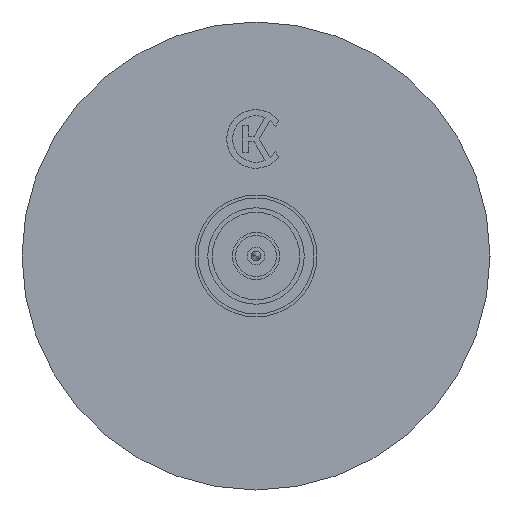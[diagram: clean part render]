
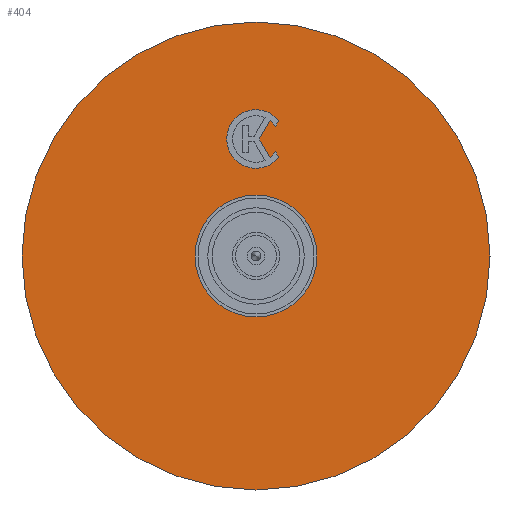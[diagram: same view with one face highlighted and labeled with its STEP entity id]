
A CAD part, left-side view. The second image highlights one B-rep face of the part: STEP entity #404.
In plain terms, the highlighted planar face has unit normal (-1, 0, 0).
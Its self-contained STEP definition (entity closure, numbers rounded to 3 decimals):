
#404=ADVANCED_FACE('',(#1794,#1796,#1798),#1800,.T.);
#1794=FACE_BOUND('',#1795,.T.);
#1795=EDGE_LOOP('',(#3080));
#1796=FACE_BOUND('',#1797,.T.);
#1797=EDGE_LOOP('',(#3081,#3082,#3083,#3084,#3085,#3086,#3087));
#1798=FACE_BOUND('',#1799,.T.);
#1799=EDGE_LOOP('',(#3088));
#1800=PLANE('',#1801);
#1801=AXIS2_PLACEMENT_3D('',#1802,#1803,#1804);
#1802=CARTESIAN_POINT('',(-30.15,0.,0.));
#1803=DIRECTION('',(-1.,0.,0.));
#1804=DIRECTION('',(0.,-1.,0.));
#3080=ORIENTED_EDGE('',*,*,#3544,.T.);
#3081=ORIENTED_EDGE('',*,*,#3545,.T.);
#3082=ORIENTED_EDGE('',*,*,#3546,.T.);
#3083=ORIENTED_EDGE('',*,*,#3547,.T.);
#3084=ORIENTED_EDGE('',*,*,#3548,.T.);
#3085=ORIENTED_EDGE('',*,*,#3549,.T.);
#3086=ORIENTED_EDGE('',*,*,#3550,.T.);
#3087=ORIENTED_EDGE('',*,*,#3551,.T.);
#3088=ORIENTED_EDGE('',*,*,#3552,.T.);
#3544=EDGE_CURVE('',#3812,#3812,#3813,.T.);
#3545=EDGE_CURVE('',#3814,#3815,#3816,.F.);
#3546=EDGE_CURVE('',#3815,#3817,#3818,.F.);
#3547=EDGE_CURVE('',#3817,#3819,#3820,.F.);
#3548=EDGE_CURVE('',#3819,#3821,#3822,.F.);
#3549=EDGE_CURVE('',#3821,#3823,#3824,.F.);
#3550=EDGE_CURVE('',#3823,#3825,#3826,.F.);
#3551=EDGE_CURVE('',#3825,#3814,#3827,.F.);
#3552=EDGE_CURVE('',#3828,#3828,#3829,.F.);
#3812=VERTEX_POINT('',#4331);
#3813=CIRCLE('',#4332,40.);
#3814=VERTEX_POINT('',#4336);
#3815=VERTEX_POINT('',#4337);
#3816=CIRCLE('',#4338,4.);
#3817=VERTEX_POINT('',#4342);
#3818=LINE('',#4343,#4344);
#3819=VERTEX_POINT('',#4346);
#3820=CIRCLE('',#4347,5.);
#3821=VERTEX_POINT('',#4351);
#3822=LINE('',#4352,#4353);
#3823=VERTEX_POINT('',#4355);
#3824=CIRCLE('',#4356,4.);
#3825=VERTEX_POINT('',#4360);
#3826=LINE('',#4361,#4362);
#3827=LINE('',#4364,#4365);
#3828=VERTEX_POINT('',#4367);
#3829=CIRCLE('',#4368,8.);
#4331=CARTESIAN_POINT('',(-30.15,-40.,0.));
#4332=AXIS2_PLACEMENT_3D('',#4333,#4334,#4335);
#4333=CARTESIAN_POINT('',(-30.15,0.,0.));
#4334=DIRECTION('',(-1.,0.,0.));
#4335=DIRECTION('',(0.,-1.,0.));
#4336=CARTESIAN_POINT('',(-30.15,-16.813,-2.417));
#4337=CARTESIAN_POINT('',(-30.15,-17.806,-3.345));
#4338=AXIS2_PLACEMENT_3D('',#4339,#4340,#4341);
#4339=CARTESIAN_POINT('',(-30.15,-20.,0.));
#4340=DIRECTION('',(1.,0.,0.));
#4341=DIRECTION('',(0.,0.548,-0.836));
#4342=CARTESIAN_POINT('',(-30.15,-16.86,-3.891));
#4343=CARTESIAN_POINT('',(-30.15,-16.86,-3.891));
#4344=VECTOR('',#4345,1.);
#4345=DIRECTION('',(0.,-0.866,0.5));
#4346=CARTESIAN_POINT('',(-30.15,-23.14,-3.891));
#4347=AXIS2_PLACEMENT_3D('',#4348,#4349,#4350);
#4348=CARTESIAN_POINT('',(-30.15,-20.,0.));
#4349=DIRECTION('',(-1.,0.,0.));
#4350=DIRECTION('',(0.,-0.628,-0.778));
#4351=CARTESIAN_POINT('',(-30.15,-22.194,-3.345));
#4352=CARTESIAN_POINT('',(-30.15,-22.194,-3.345));
#4353=VECTOR('',#4354,1.);
#4354=DIRECTION('',(0.,-0.866,-0.5));
#4355=CARTESIAN_POINT('',(-30.15,-23.187,-2.417));
#4356=AXIS2_PLACEMENT_3D('',#4357,#4358,#4359);
#4357=CARTESIAN_POINT('',(-30.15,-20.,0.));
#4358=DIRECTION('',(1.,0.,0.));
#4359=DIRECTION('',(0.,-0.797,-0.604));
#4360=CARTESIAN_POINT('',(-30.15,-20.,-0.577));
#4361=CARTESIAN_POINT('',(-30.15,-20.,-0.577));
#4362=VECTOR('',#4363,1.);
#4363=DIRECTION('',(0.,-0.866,-0.5));
#4364=CARTESIAN_POINT('',(-30.15,-16.813,-2.417));
#4365=VECTOR('',#4366,1.);
#4366=DIRECTION('',(0.,-0.866,0.5));
#4367=CARTESIAN_POINT('',(-30.15,0.,-8.));
#4368=AXIS2_PLACEMENT_3D('',#4369,#4370,#4371);
#4369=CARTESIAN_POINT('',(-30.15,0.,0.));
#4370=DIRECTION('',(-1.,0.,0.));
#4371=DIRECTION('',(0.,0.,-1.));
